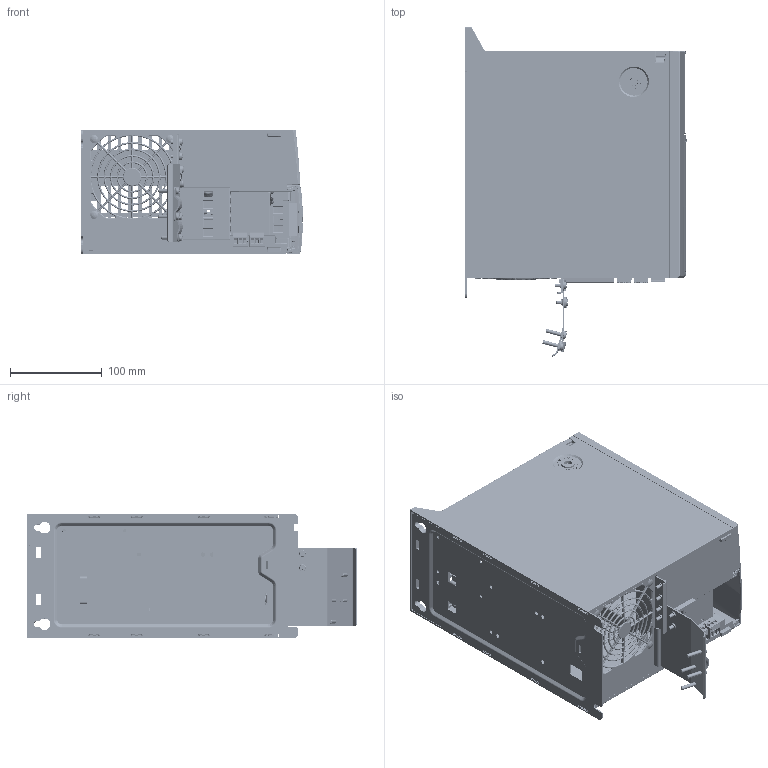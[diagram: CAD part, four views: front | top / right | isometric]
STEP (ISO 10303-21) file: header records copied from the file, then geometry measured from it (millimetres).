
FILE_DESCRIPTION((''),'2;1');
FILE_NAME('H4_ASM_ASM','2012-01-11T',('U255134'),('Danfoss Power Electronics'),'PRO/ENGINEER BY PARAMETRIC TECHNOLOGY CORPORATION, 2010370','PRO/ENGINEER BY PARAMETRIC TECHNOLOGY CORPORATION, 2010370','');
FILE_SCHEMA(('CONFIG_CONTROL_DESIGN', 'GEOMETRIC_VALIDATION_PROPERTIES_MIM'));
Products named in the file (24): 132B3408; 132B3403; 132B4114; 132B4135; 132B4119; 132B3432_ASM_ASM; 132B4121; 132B4148_UMSH-8244JN-F; LCD_LIGHTGUIDE_ASM_ASM; 132B4142; 132B4296; 132B9105_ASM_ASM; 132B3418; 132B3461; 681X0488; 132B3422_ASM_ASM; 132B3428; 132B3462; 681X0366; 132B3460; 132B3459_ASM_ASM; 132B5733; 132B5734; H4_ASM_ASM
Assembly tree (37 placements, depth 4):
  H4_ASM_ASM
    132B3408
    132B3403
    132B4114
    132B4135
    132B4119
    132B3432_ASM_ASM  x2
      132B3403
    132B4121
    132B9105_ASM_ASM
      LCD_LIGHTGUIDE_ASM_ASM
        132B4148_UMSH-8244JN-F
      132B4142
      132B4296
    132B3422_ASM_ASM
      132B3418
      132B3461
      681X0488  x2
    132B3461
    681X0488  x2
    132B3459_ASM_ASM
      132B3428
      132B3462
      681X0366  x4
      681X0488  x4
      132B3461
      132B3460
    132B5733
    132B5734
Bounding box: 241.21 x 358.67 x 135.1 mm (x, y, z)
Volume: 904772.9 mm3; surface area: 914182.3 mm2
Topology: 32 solids, 117 shells, 19127 faces, 53049 edges, 34138 vertices
Faces by surface type: plane 13411, cylinder 3437, bspline 1003, sphere 489, cone 431, torus 354, extrusion 2
Entity records: 735472 total; most frequent: CARTESIAN_POINT 217760, ORIENTED_EDGE 96033, DIRECTION 77084, EDGE_CURVE 48348, VERTEX_POINT 31359, VECTOR 30912, LINE 30910, AXIS2_PLACEMENT_3D 23086
